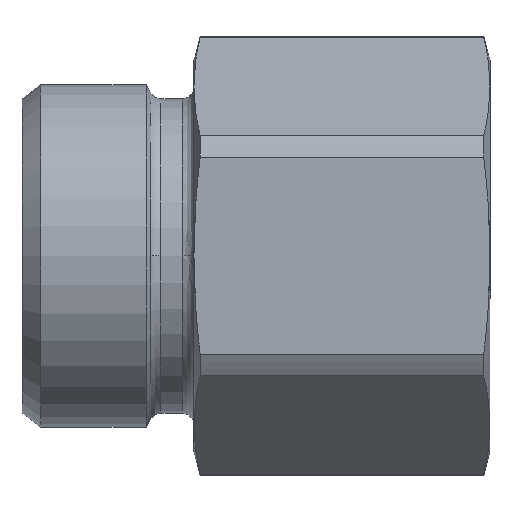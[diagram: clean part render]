
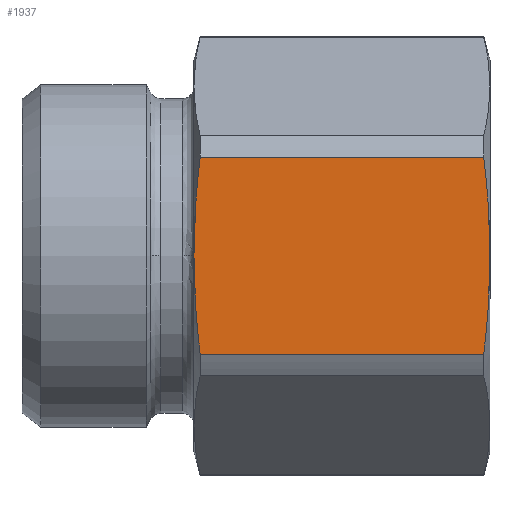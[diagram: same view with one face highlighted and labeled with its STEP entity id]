
A CAD part, top view. The second image highlights one B-rep face of the part: STEP entity #1937.
In plain terms, the highlighted planar face has unit normal (0, 0, 1) as drawn and (1, 0, 0) by its records, which use the part's own axes.
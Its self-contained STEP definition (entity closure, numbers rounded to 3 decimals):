
#1250=CARTESIAN_POINT('',(20.5,0.0,15.5));
#1251=VERTEX_POINT('',#1250);
#1315=CARTESIAN_POINT('',(20.5,-10.318,14.844));
#1316=VERTEX_POINT('',#1315);
#1334=CARTESIAN_POINT('',(20.5,-10.318,-14.844));
#1335=VERTEX_POINT('',#1334);
#1343=CARTESIAN_POINT('',(20.5,-10.318,-14.844));
#1344=DIRECTION('',(0.0,0.0,1.0));
#1345=VECTOR('',#1344,29.687);
#1346=LINE('',#1343,#1345);
#1347=EDGE_CURVE('',#1335,#1316,#1346,.T.);
#1359=CARTESIAN_POINT('',(20.5,10.318,14.844));
#1360=VERTEX_POINT('',#1359);
#1368=CARTESIAN_POINT('',(20.5,10.318,-14.844));
#1369=VERTEX_POINT('',#1368);
#1370=CARTESIAN_POINT('',(20.5,10.318,14.844));
#1371=DIRECTION('',(0.0,0.0,-1.0));
#1372=VECTOR('',#1371,29.687);
#1373=LINE('',#1370,#1372);
#1374=EDGE_CURVE('',#1360,#1369,#1373,.T.);
#1870=CARTESIAN_POINT('',(20.5,10.318,14.844));
#1871=CARTESIAN_POINT('',(20.5,4.868,15.5));
#1872=CARTESIAN_POINT('',(20.5,0.0,15.5));
#1880=(BOUNDED_CURVE()B_SPLINE_CURVE(2,(#1870,#1871,#1872),.UNSPECIFIED.,.F.,.U.)B_SPLINE_CURVE_WITH_KNOTS((3,3),(8.914,20.228),.UNSPECIFIED.)CURVE()GEOMETRIC_REPRESENTATION_ITEM()RATIONAL_B_SPLINE_CURVE((1.047,1.053,1.0))REPRESENTATION_ITEM(''));
#1881=EDGE_CURVE('',#1360,#1251,#1880,.T.);
#1886=CARTESIAN_POINT('',(20.5,-11.836,0.0));
#1887=DIRECTION('',(1.0,0.0,0.0));
#1888=DIRECTION('',(0.0,0.0,-1.0));
#1889=AXIS2_PLACEMENT_3D('',#1886,#1887,#1888);
#1890=PLANE('',#1889);
#1891=ORIENTED_EDGE('',*,*,#1374,.F.);
#1892=ORIENTED_EDGE('',*,*,#1881,.T.);
#1893=CARTESIAN_POINT('',(20.5,0.0,15.5));
#1894=CARTESIAN_POINT('',(20.5,-4.868,15.5));
#1895=CARTESIAN_POINT('',(20.5,-10.318,14.844));
#1903=(BOUNDED_CURVE()B_SPLINE_CURVE(2,(#1893,#1894,#1895),.UNSPECIFIED.,.F.,.U.)B_SPLINE_CURVE_WITH_KNOTS((3,3),(20.228,31.542),.UNSPECIFIED.)CURVE()GEOMETRIC_REPRESENTATION_ITEM()RATIONAL_B_SPLINE_CURVE((1.0,1.053,1.047))REPRESENTATION_ITEM(''));
#1904=EDGE_CURVE('',#1251,#1316,#1903,.T.);
#1905=ORIENTED_EDGE('',*,*,#1904,.T.);
#1906=ORIENTED_EDGE('',*,*,#1347,.F.);
#1907=CARTESIAN_POINT('',(20.5,0.0,-15.5));
#1908=VERTEX_POINT('',#1907);
#1909=CARTESIAN_POINT('',(20.5,-10.318,-14.844));
#1910=CARTESIAN_POINT('',(20.5,-4.868,-15.5));
#1911=CARTESIAN_POINT('',(20.5,0.0,-15.5));
#1919=(BOUNDED_CURVE()B_SPLINE_CURVE(2,(#1909,#1910,#1911),.UNSPECIFIED.,.F.,.U.)B_SPLINE_CURVE_WITH_KNOTS((3,3),(8.914,20.228),.UNSPECIFIED.)CURVE()GEOMETRIC_REPRESENTATION_ITEM()RATIONAL_B_SPLINE_CURVE((1.047,1.053,1.0))REPRESENTATION_ITEM(''));
#1920=EDGE_CURVE('',#1335,#1908,#1919,.T.);
#1921=ORIENTED_EDGE('',*,*,#1920,.T.);
#1922=CARTESIAN_POINT('',(20.5,0.0,-15.5));
#1923=CARTESIAN_POINT('',(20.5,4.868,-15.5));
#1924=CARTESIAN_POINT('',(20.5,10.318,-14.844));
#1932=(BOUNDED_CURVE()B_SPLINE_CURVE(2,(#1922,#1923,#1924),.UNSPECIFIED.,.F.,.U.)B_SPLINE_CURVE_WITH_KNOTS((3,3),(20.228,31.542),.UNSPECIFIED.)CURVE()GEOMETRIC_REPRESENTATION_ITEM()RATIONAL_B_SPLINE_CURVE((1.0,1.053,1.047))REPRESENTATION_ITEM(''));
#1933=EDGE_CURVE('',#1908,#1369,#1932,.T.);
#1934=ORIENTED_EDGE('',*,*,#1933,.T.);
#1935=EDGE_LOOP('',(#1891,#1892,#1905,#1906,#1921,#1934));
#1936=FACE_OUTER_BOUND('',#1935,.T.);
#1937=ADVANCED_FACE('',(#1936),#1890,.T.);
